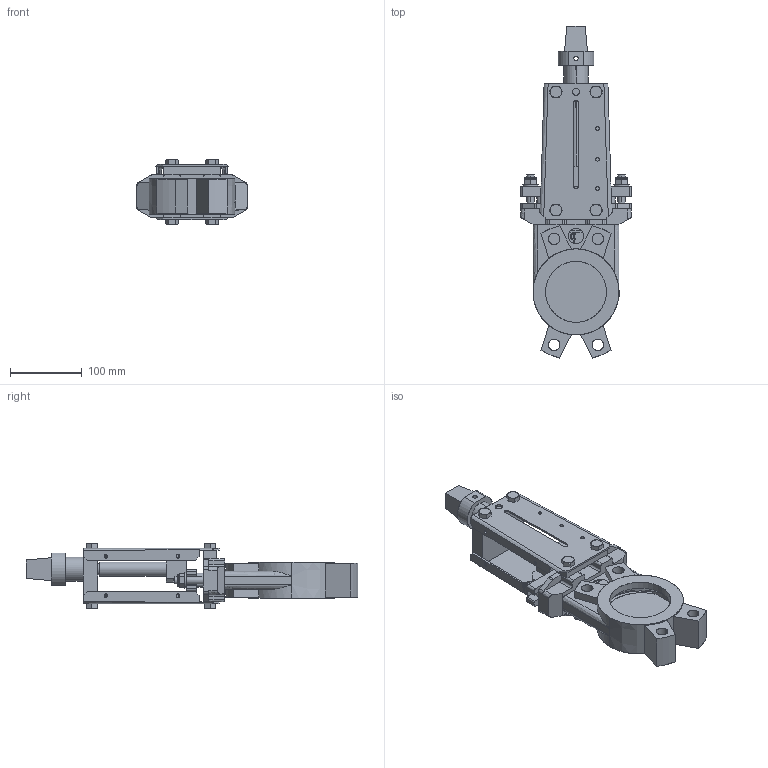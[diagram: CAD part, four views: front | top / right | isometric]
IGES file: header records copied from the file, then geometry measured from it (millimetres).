
Start section: SolidWorks IGES file using analytic representation for surfaces
Global section: file name: D:\part\3D Projects\VG-SQUARE OPERATING NON RASING(DN50-600)\VG S N DN80\VG S N DN80.IGS; native system: SolidWorks 2009; preprocessor: SolidWorks 2009; author: zhixin.zheng; date: 100504.150111; units: millimetre
Bounding box: 154 x 463.17 x 89.8 mm (x, y, z)
Surface area: 279701.4 mm2 (no closed solid volume)
Topology: 0 solids, 0 shells, 643 faces, 6950 edges, 6950 vertices
Faces by surface type: bspline 384, revolution 259
